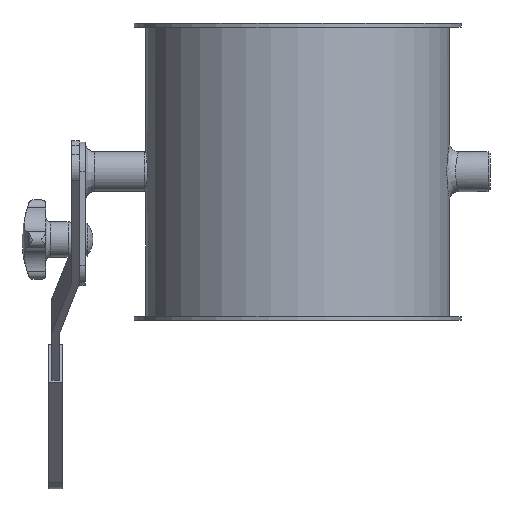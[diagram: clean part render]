
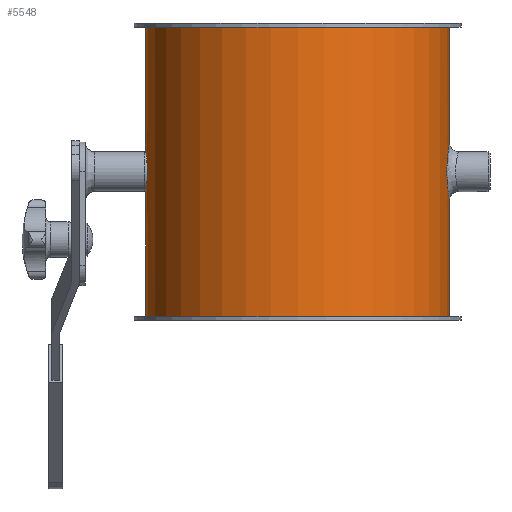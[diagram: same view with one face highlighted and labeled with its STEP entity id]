
A CAD part, front view. The second image highlights one B-rep face of the part: STEP entity #5548.
In plain terms, the highlighted cylindrical face has radius 76.5 mm (diameter 153 mm), a full revolution.
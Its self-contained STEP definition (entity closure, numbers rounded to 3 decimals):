
#5437=CARTESIAN_POINT('',(75.264,13.694,75.0));
#5438=VERTEX_POINT('',#5437);
#5448=CARTESIAN_POINT('',(75.264,13.694,75.));
#5449=CARTESIAN_POINT('',(75.264,13.694,75.001));
#5450=CARTESIAN_POINT('',(75.264,13.694,75.002));
#5451=CARTESIAN_POINT('',(75.264,13.694,75.003));
#5452=CARTESIAN_POINT('',(75.264,13.694,77.164));
#5453=CARTESIAN_POINT('',(75.441,12.767,81.483));
#5454=CARTESIAN_POINT('',(76.042,8.845,86.71));
#5455=CARTESIAN_POINT('',(76.437,4.132,89.123));
#5456=CARTESIAN_POINT('',(76.52,0.017,89.621));
#5457=CARTESIAN_POINT('',(76.438,-4.091,89.138));
#5458=CARTESIAN_POINT('',(76.047,-8.814,86.729));
#5459=CARTESIAN_POINT('',(75.373,-13.192,80.957));
#5460=CARTESIAN_POINT('',(75.174,-14.166,74.216));
#5461=CARTESIAN_POINT('',(75.477,-12.521,68.615));
#5462=CARTESIAN_POINT('',(75.895,-9.811,64.392));
#5463=CARTESIAN_POINT('',(76.273,-6.342,61.885));
#5464=CARTESIAN_POINT('',(76.517,-1.764,60.384));
#5465=CARTESIAN_POINT('',(76.52,3.155,60.38));
#5466=CARTESIAN_POINT('',(76.042,8.83,63.277));
#5467=CARTESIAN_POINT('',(75.545,12.1,67.622));
#5468=CARTESIAN_POINT('',(75.308,13.46,71.733));
#5469=CARTESIAN_POINT('',(75.264,13.694,73.92));
#5470=CARTESIAN_POINT('',(75.264,13.694,75.));
#5471=B_SPLINE_CURVE_WITH_KNOTS('',3,(#5448,#5449,#5450,#5451,#5452,#5453,#5454,#5455,#5456,#5457,#5458,#5459,#5460,#5461,#5462,#5463,#5464,#5465,#5466,#5467,#5468,#5469,#5470),.UNSPECIFIED.,.T.,.U.,(4,3,1,1,1,1,1,1,1,1,1,1,1,1,1,1,1,1,4),(-6.035,-6.034,-5.603,-5.172,-4.741,-4.526,-4.31,-3.879,-3.448,-2.874,-2.586,-2.299,-1.868,-1.724,-1.293,-0.862,-0.431,-0.216,0.),.UNSPECIFIED.);
#5472=EDGE_CURVE('',#5438,#5438,#5471,.T.);
#5477=CARTESIAN_POINT('',(0.0,0.0,0.0));
#5478=DIRECTION('',(0.0,0.0,1.0));
#5479=DIRECTION('',(-1.0,0.0,0.0));
#5480=AXIS2_PLACEMENT_3D('',#5477,#5478,#5479);
#5481=CYLINDRICAL_SURFACE('',#5480,76.5);
#5482=CARTESIAN_POINT('',(76.5,0.,148.0));
#5483=VERTEX_POINT('',#5482);
#5484=CARTESIAN_POINT('',(0.0,0.0,148.0));
#5485=DIRECTION('',(0.0,0.0,-1.0));
#5486=DIRECTION('',(-1.0,0.0,0.0));
#5487=AXIS2_PLACEMENT_3D('',#5484,#5485,#5486);
#5488=CIRCLE('',#5487,76.5);
#5489=EDGE_CURVE('',#5483,#5483,#5488,.T.);
#5490=ORIENTED_EDGE('',*,*,#5489,.T.);
#5491=EDGE_LOOP('',(#5490));
#5492=FACE_OUTER_BOUND('',#5491,.T.);
#5493=CARTESIAN_POINT('',(-76.5,0.,2.0));
#5494=VERTEX_POINT('',#5493);
#5495=CARTESIAN_POINT('',(0.0,0.0,2.0));
#5496=DIRECTION('',(0.0,0.0,1.0));
#5497=DIRECTION('',(-1.0,0.0,0.0));
#5498=AXIS2_PLACEMENT_3D('',#5495,#5496,#5497);
#5499=CIRCLE('',#5498,76.5);
#5500=EDGE_CURVE('',#5494,#5494,#5499,.T.);
#5501=ORIENTED_EDGE('',*,*,#5500,.T.);
#5502=EDGE_LOOP('',(#5501));
#5503=FACE_BOUND('',#5502,.T.);
#5504=CARTESIAN_POINT('',(-75.844,10.0,75.0));
#5505=VERTEX_POINT('',#5504);
#5506=CARTESIAN_POINT('',(-75.844,10.0,75.0));
#5507=CARTESIAN_POINT('',(-75.844,10.0,76.257));
#5508=CARTESIAN_POINT('',(-75.878,9.748,77.597));
#5509=CARTESIAN_POINT('',(-76.002,8.727,80.061));
#5510=CARTESIAN_POINT('',(-76.09,7.958,81.184));
#5511=CARTESIAN_POINT('',(-76.255,6.184,82.958));
#5512=CARTESIAN_POINT('',(-76.342,5.061,83.727));
#5513=CARTESIAN_POINT('',(-76.466,2.597,84.748));
#5514=CARTESIAN_POINT('',(-76.5,1.257,85.0));
#5515=CARTESIAN_POINT('',(-76.5,-1.257,85.0));
#5516=CARTESIAN_POINT('',(-76.466,-2.597,84.748));
#5517=CARTESIAN_POINT('',(-76.342,-5.061,83.727));
#5518=CARTESIAN_POINT('',(-76.255,-6.184,82.958));
#5519=CARTESIAN_POINT('',(-76.09,-7.958,81.184));
#5520=CARTESIAN_POINT('',(-76.002,-8.727,80.061));
#5521=CARTESIAN_POINT('',(-75.878,-9.748,77.597));
#5522=CARTESIAN_POINT('',(-75.844,-10.0,76.257));
#5523=CARTESIAN_POINT('',(-75.844,-10.0,73.743));
#5524=CARTESIAN_POINT('',(-75.878,-9.748,72.403));
#5525=CARTESIAN_POINT('',(-76.002,-8.727,69.939));
#5526=CARTESIAN_POINT('',(-76.09,-7.958,68.816));
#5527=CARTESIAN_POINT('',(-76.255,-6.184,67.042));
#5528=CARTESIAN_POINT('',(-76.342,-5.061,66.273));
#5529=CARTESIAN_POINT('',(-76.466,-2.597,65.252));
#5530=CARTESIAN_POINT('',(-76.5,-1.257,65.0));
#5531=CARTESIAN_POINT('',(-76.5,1.257,65.0));
#5532=CARTESIAN_POINT('',(-76.466,2.597,65.252));
#5533=CARTESIAN_POINT('',(-76.342,5.061,66.273));
#5534=CARTESIAN_POINT('',(-76.255,6.184,67.042));
#5535=CARTESIAN_POINT('',(-76.09,7.958,68.816));
#5536=CARTESIAN_POINT('',(-76.002,8.727,69.939));
#5537=CARTESIAN_POINT('',(-75.878,9.748,72.403));
#5538=CARTESIAN_POINT('',(-75.844,10.0,73.743));
#5539=CARTESIAN_POINT('',(-75.844,10.0,75.));
#5540=B_SPLINE_CURVE_WITH_KNOTS('',3,(#5506,#5507,#5508,#5509,#5510,#5511,#5512,#5513,#5514,#5515,#5516,#5517,#5518,#5519,#5520,#5521,#5522,#5523,#5524,#5525,#5526,#5527,#5528,#5529,#5530,#5531,#5532,#5533,#5534,#5535,#5536,#5537,#5538,#5539),.UNSPECIFIED.,.T.,.U.,(4,2,2,2,2,2,2,2,2,2,2,2,2,2,2,2,4),(0.0,0.377,0.754,1.131,1.509,1.886,2.263,2.64,3.017,3.394,3.772,4.149,4.526,4.903,5.28,5.657,6.034),.UNSPECIFIED.);
#5541=EDGE_CURVE('',#5505,#5505,#5540,.T.);
#5542=ORIENTED_EDGE('',*,*,#5541,.T.);
#5543=EDGE_LOOP('',(#5542));
#5544=FACE_BOUND('',#5543,.T.);
#5545=ORIENTED_EDGE('',*,*,#5472,.F.);
#5546=EDGE_LOOP('',(#5545));
#5547=FACE_BOUND('',#5546,.T.);
#5548=ADVANCED_FACE('',(#5492,#5503,#5544,#5547),#5481,.T.);
